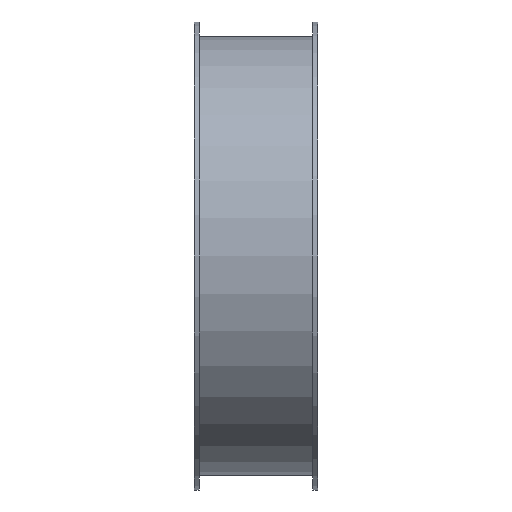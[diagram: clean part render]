
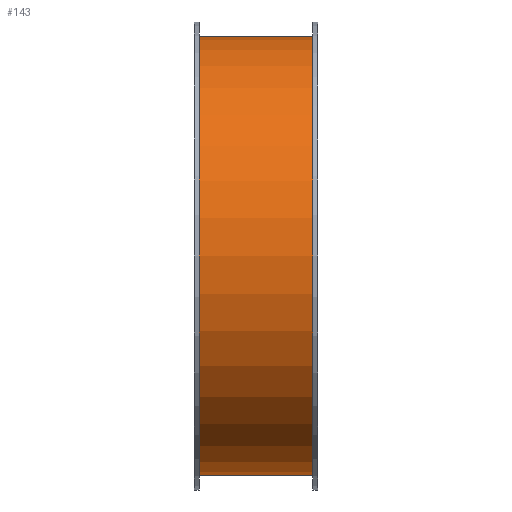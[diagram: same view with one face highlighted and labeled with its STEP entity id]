
A CAD part, front view. The second image highlights one B-rep face of the part: STEP entity #143.
In plain terms, the highlighted cylindrical face has radius 89 mm (diameter 178 mm), a full revolution.
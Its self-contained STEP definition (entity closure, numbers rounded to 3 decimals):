
#112=CARTESIAN_POINT('',(16.119,2.817,0.0));
#113=VERTEX_POINT('',#112);
#114=CARTESIAN_POINT('',(16.119,91.817,0.0));
#115=DIRECTION('',(-1.0,0.0,0.0));
#116=DIRECTION('',(0.0,-1.0,0.0));
#117=AXIS2_PLACEMENT_3D('',#114,#115,#116);
#118=CIRCLE('',#117,89.0);
#119=EDGE_CURVE('',#113,#113,#118,.T.);
#124=CARTESIAN_POINT('',(-6.881,91.817,0.0));
#125=DIRECTION('',(-1.0,0.,0.0));
#126=DIRECTION('',(0.0,-1.0,0.0));
#127=AXIS2_PLACEMENT_3D('',#124,#125,#126);
#128=CYLINDRICAL_SURFACE('',#127,89.0);
#129=CARTESIAN_POINT('',(-29.881,2.817,0.0));
#130=VERTEX_POINT('',#129);
#131=CARTESIAN_POINT('',(-29.881,91.817,0.0));
#132=DIRECTION('',(-1.0,0.0,0.0));
#133=DIRECTION('',(0.0,-1.0,0.0));
#134=AXIS2_PLACEMENT_3D('',#131,#132,#133);
#135=CIRCLE('',#134,89.);
#136=EDGE_CURVE('',#130,#130,#135,.T.);
#137=ORIENTED_EDGE('',*,*,#136,.F.);
#138=EDGE_LOOP('',(#137));
#139=FACE_OUTER_BOUND('',#138,.T.);
#140=ORIENTED_EDGE('',*,*,#119,.T.);
#141=EDGE_LOOP('',(#140));
#142=FACE_BOUND('',#141,.T.);
#143=ADVANCED_FACE('',(#139,#142),#128,.T.);
